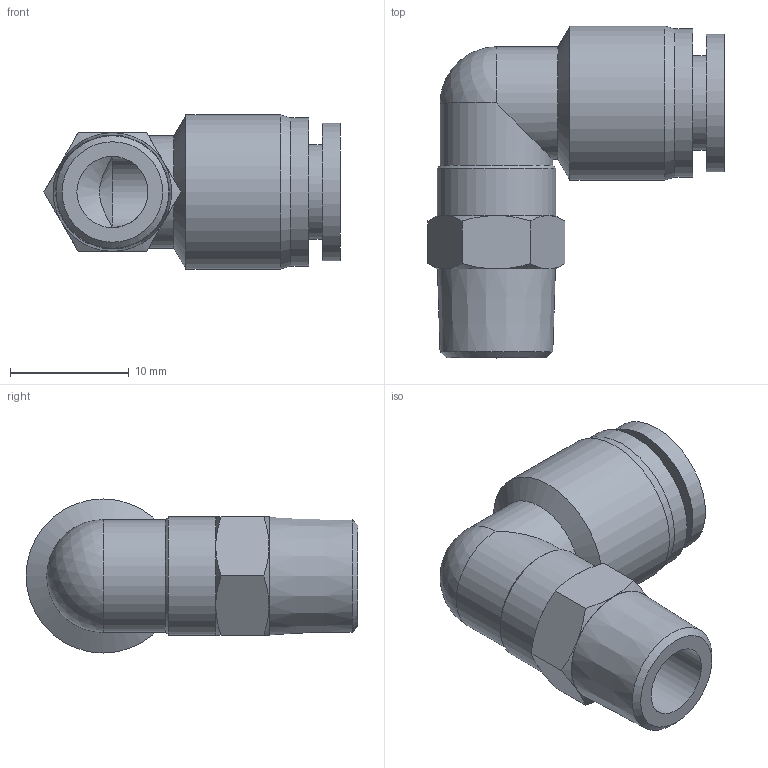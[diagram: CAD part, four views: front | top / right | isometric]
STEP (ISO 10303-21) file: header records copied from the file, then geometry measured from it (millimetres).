
FILE_DESCRIPTION((''),'2;1');
FILE_NAME('S:\UTecnico\ArchivioUT\Speciali Clienti\Speciali KONFIT\Plastica\RP\RP 72K\RP72K1806.stp','2012-05-22T08:22:57',('UT5'),(''),'Autodesk Inventor 2012','Autodesk Inventor 2012','');
FILE_SCHEMA(('AUTOMOTIVE_DESIGN { 1 0 10303 214 1 1 1 1 }'));
Length unit declared in the file: millimetre
Products named in the file (1): RP72K1806
Bounding box: 24.97 x 28 x 13 mm (x, y, z)
Volume: 2527.6 mm3; surface area: 2391.6 mm2
Topology: 1 solids, 1 shells, 40 faces, 84 edges, 49 vertices
Faces by surface type: cone 19, plane 11, cylinder 9, sphere 1
Full cylindrical faces by diameter (mm): 6 x2, 8 x1, 9.5 x2, 10 x1, 11.6 x1, 12.5 x1, 13 x1
Entity records: 985 total; most frequent: CARTESIAN_POINT 215, DIRECTION 156, ORIENTED_EDGE 130, AXIS2_PLACEMENT_3D 75, EDGE_CURVE 65, EDGE_LOOP 59, VERTEX_POINT 44, FACE_OUTER_BOUND 40
